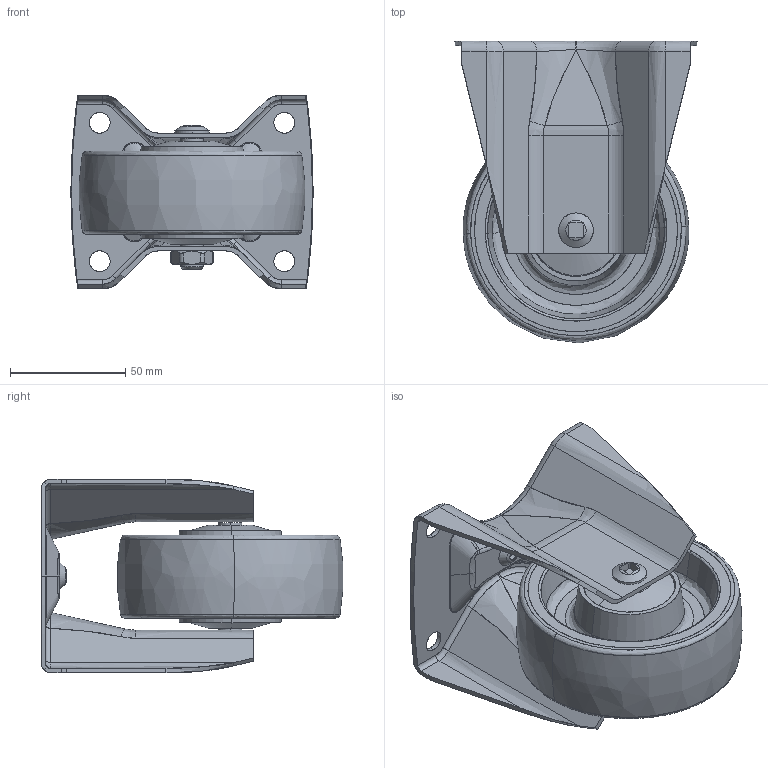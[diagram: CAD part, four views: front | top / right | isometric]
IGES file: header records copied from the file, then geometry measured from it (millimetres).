
Start section: SolidWorks IGES file using analytic representation for surfaces
Global section: file name: S:\Tyokansio\VL\LK\400646_IGES.IGS; native system: SolidWorks 2011; preprocessor: SolidWorks 2011; author: VilleLa; date: 110829.132637; units: millimetre
Bounding box: 105 x 130.82 x 84 mm (x, y, z)
Surface area: 90057.9 mm2 (no closed solid volume)
Topology: 0 solids, 0 shells, 296 faces, 4888 edges, 4888 vertices
Faces by surface type: bspline 190, revolution 106
